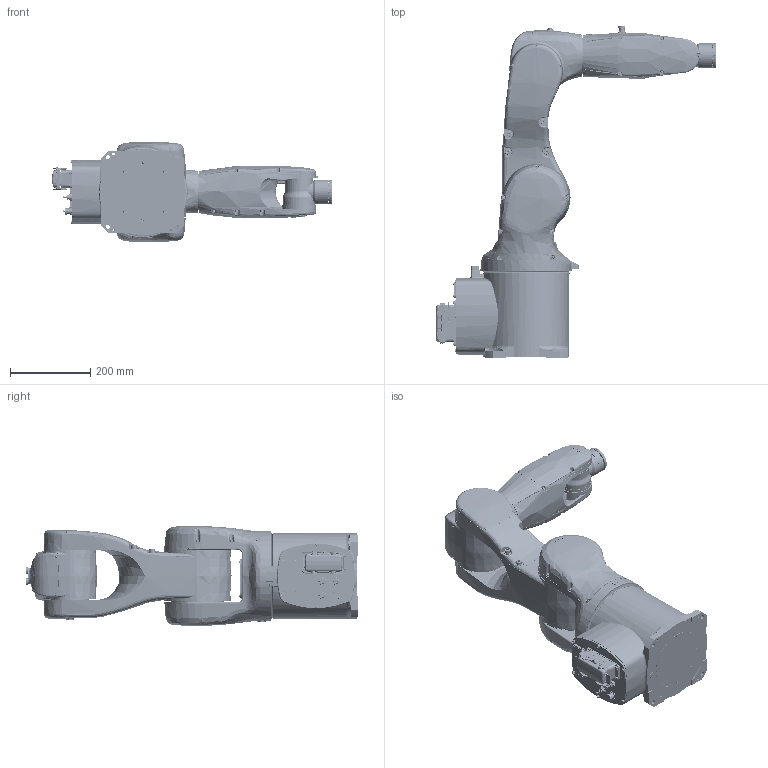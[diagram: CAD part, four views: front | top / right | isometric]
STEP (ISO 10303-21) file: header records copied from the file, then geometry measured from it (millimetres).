
FILE_DESCRIPTION (( 'STEP AP203' ), '1' );
FILE_NAME ('AIR6-俋楷耀倰蚾饜极.STEP', '2019-07-17T07:08:52', ( 'User' ), ( 'china' ), 'SwSTEP 2.0', 'SolidWorks 2011', '' );
FILE_SCHEMA (( 'CONFIG_CONTROL_DESIGN' ));
Length unit declared in the file: millimetre
Products named in the file (7): AIR6-俋楷耀倰蚾饜极; Link5-AIR6-6粣蚾饜; Link4-AIR6-5粣蚾饜; Link3-AIR6-4粣蚾饜; Link2-AIR6-2粣蚾饜; Link1-AIR6-1粣蚾饜; Link0-AIR6-菁釱蚾饜
Assembly tree (6 placements, depth 2):
  AIR6-俋楷耀倰蚾饜极
    Link2-AIR6-2粣蚾饜
    Link0-AIR6-菁釱蚾饜
    Link1-AIR6-1粣蚾饜
    Link5-AIR6-6粣蚾饜
    Link3-AIR6-4粣蚾饜
    Link4-AIR6-5粣蚾饜
Bounding box: 696.86 x 827 x 251.46 mm (x, y, z)
Volume: 9009540.1 mm3; surface area: 2276511.1 mm2
Topology: 5 solids, 266 shells, 11123 faces, 27857 edges, 17607 vertices
Faces by surface type: plane 4629, cylinder 3553, bspline 1449, cone 947, torus 481, sphere 64
Entity records: 590429 total; most frequent: CARTESIAN_POINT 338108, ORIENTED_EDGE 54362, DIRECTION 48635, EDGE_CURVE 27261, AXIS2_PLACEMENT_3D 18649, VERTEX_POINT 17601, EDGE_LOOP 12508, VECTOR 11337
